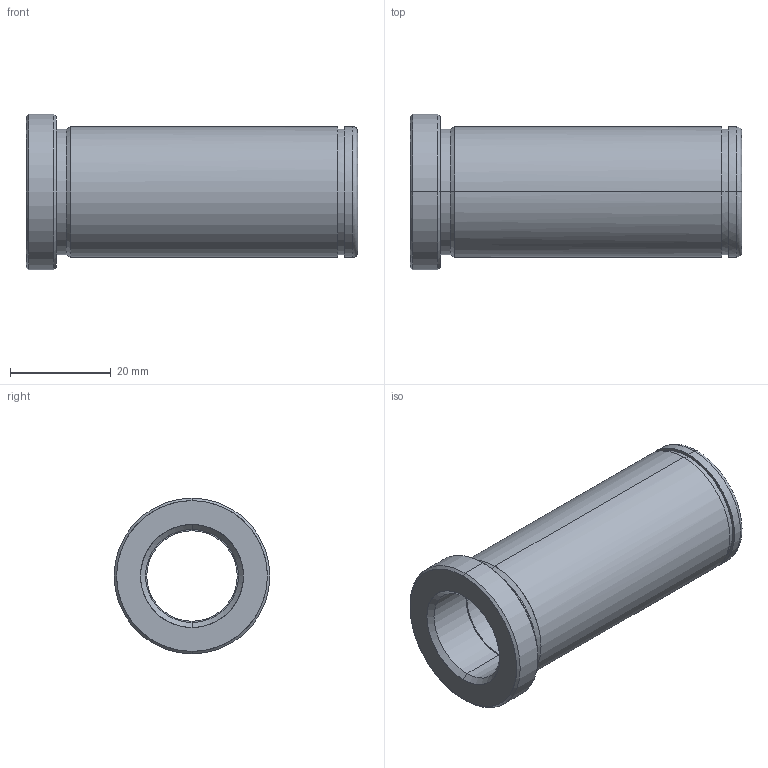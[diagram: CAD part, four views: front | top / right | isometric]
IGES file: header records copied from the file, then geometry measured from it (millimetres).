
Start section: START RECORD GO HERE.
Global section: file name: 553-18X66.igs; native system: DASSAULT SYSTEMES CATIA V5 R20 - www.3ds.com; preprocessor: CATIA Version 5 Release 20 ; author: Utente; organization: NB04-ASUS; date: 20210523.192818; units: millimetre
Bounding box: 66 x 31 x 31 mm (x, y, z)
Surface area: 10191.6 mm2 (no closed solid volume)
Topology: 0 solids, 0 shells, 32 faces, 204 edges, 204 vertices
Faces by surface type: revolution 26, plane 6
